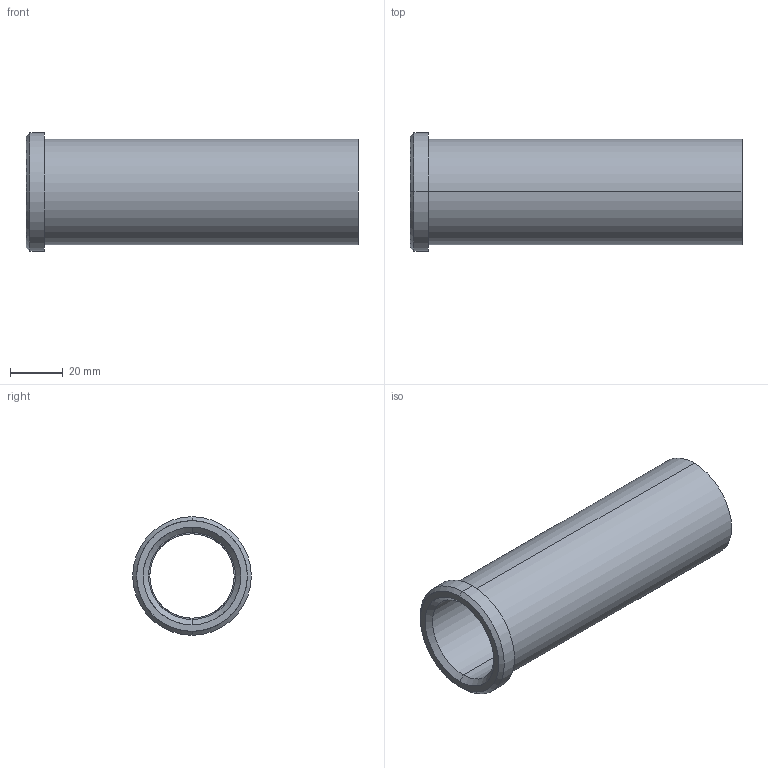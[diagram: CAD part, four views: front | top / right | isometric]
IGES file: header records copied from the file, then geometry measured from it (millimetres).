
Start section: START RECORD GO HERE.
Global section: file name: 353-32X126.igs; native system: DASSAULT SYSTEMES CATIA V5 R20 - www.3ds.com; preprocessor: CATIA Version 5 Release 20 ; author: Utente; organization: NB04-ASUS; date: 20210512.205037; units: millimetre
Bounding box: 126 x 45 x 45 mm (x, y, z)
Surface area: 30049.7 mm2 (no closed solid volume)
Topology: 0 solids, 0 shells, 18 faces, 116 edges, 116 vertices
Faces by surface type: revolution 14, plane 4
